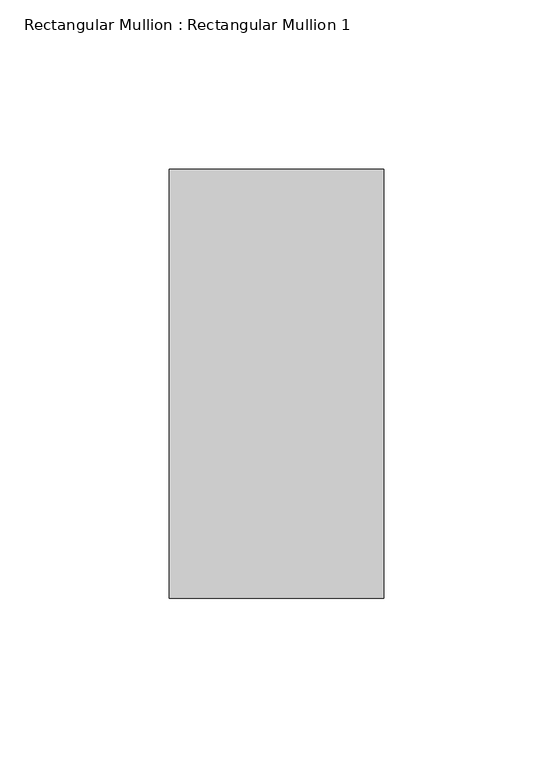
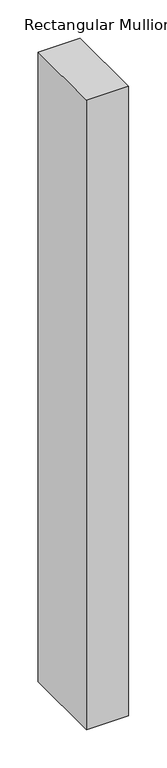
"""IFC4 building model written with IfcOpenShell, lengths in millimetres: member geometry, Rectangular Mullion : Rectangular Mullion 1."""

from ifc_helpers import new_model, si_unit, frame, origin, place, context, project, spatial, polyline, outline, extrude, source, transform, mapped, element, save


def rectangular_mullion_rectangular_mullion_1_47123520(model_context):
    return source(origin(), model_context, "Body", "SweptSolid", [
        extrude(outline(polyline([(31.75, 63.5), (31.75, -63.5), (-31.75, -63.5), (-31.75, 63.5), (31.75, 63.5)])), frame((0.0, 0.0, -1004.5257062), z_axis=(0.0, 0.0, 1.0), x_axis=(1.0, 0.0, 0.0)), (0.0, 0.0, 1.0), 1004.5257062),
    ])


if __name__ == "__main__":
    model = new_model("IFC4")
    model_context = context("Model", 3, world=origin())
    ifc_project = project(units=[si_unit("LENGTHUNIT", "METRE", prefix="MILLI")], contexts=[model_context])
    site = spatial("IfcSite", under=ifc_project)
    building = spatial("IfcBuilding", under=site)
    placement = place(None, origin())
    rectangular_mullion_rectangular_mullion_1_shape = rectangular_mullion_rectangular_mullion_1_47123520(model_context)
    element("IfcMember", 1, ObjectType="Rectangular Mullion : Rectangular Mullion 1", at=placement, inside=building, context=model_context, shape_type="MappedRepresentation", body=[
        mapped(rectangular_mullion_rectangular_mullion_1_shape, transform((0.0, 0.0, 0.0), x_axis=(1.0, 0.0, 0.0), y_axis=(0.0, 1.0, 0.0), z_axis=(0.0, 0.0, 1.0))),
    ])
    save(model, "model.ifc")
